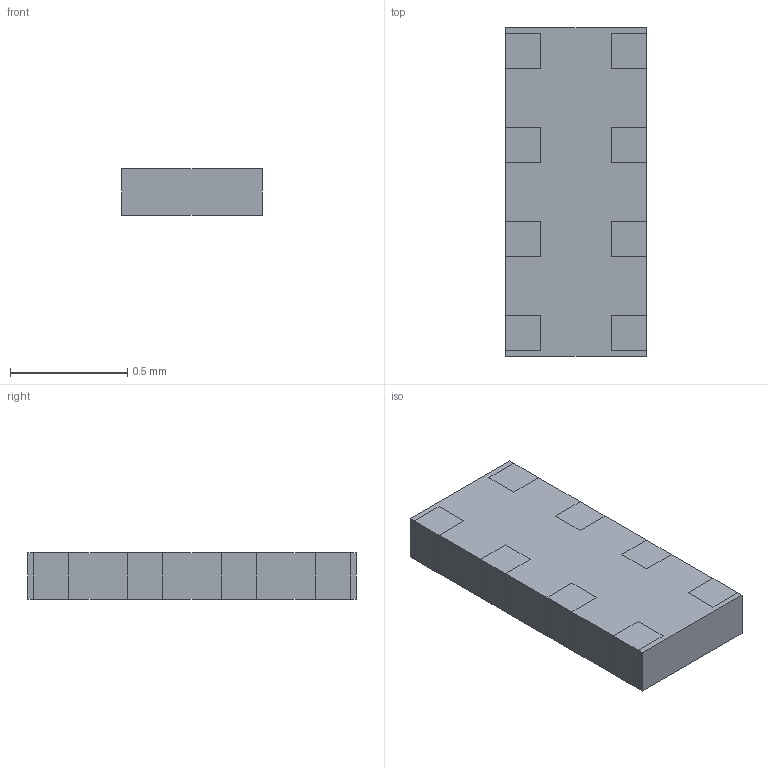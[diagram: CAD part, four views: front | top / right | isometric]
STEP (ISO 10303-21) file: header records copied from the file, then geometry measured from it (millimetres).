
FILE_DESCRIPTION(('Open CASCADE Model'),'2;1');
FILE_NAME('Open CASCADE Shape Model','2026-10-04T11:29:43',('Author'),( 'Open CASCADE'),'Open CASCADE STEP processor 7.9','Open CASCADE 7.9' ,'Unknown');
FILE_SCHEMA(('AUTOMOTIVE_DESIGN { 1 0 10303 214 1 1 1 1 }'));
Length unit declared in the file: millimetre
Products named in the file (3): Yageo_YC104_Flat_Array_Nominal; package_body; terminals
Assembly tree (2 placements, depth 2):
  Yageo_YC104_Flat_Array_Nominal
    package_body
    terminals
Bounding box: 0.6 x 1.4 x 0.2 mm (x, y, z)
Volume: 0.2 mm3; surface area: 3.9 mm2
Topology: 9 solids, 9 shells, 86 faces, 204 edges, 136 vertices
Faces by surface type: plane 86
Entity records: 5177 total; most frequent: CARTESIAN_POINT 837, DIRECTION 790, LINE 612, VECTOR 612, ORIENTED_EDGE 408, PCURVE 408, DEFINITIONAL_REPRESENTATION 408, EDGE_CURVE 204
